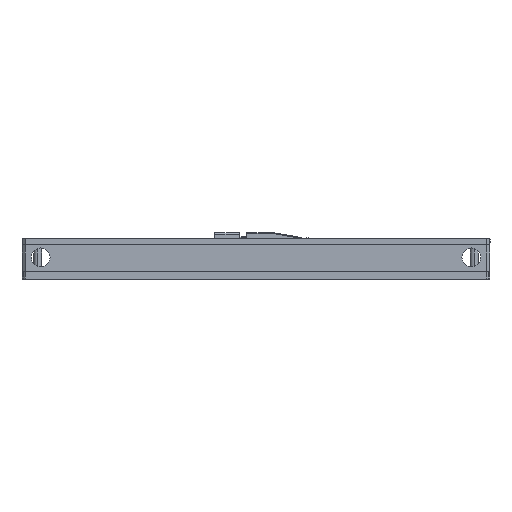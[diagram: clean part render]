
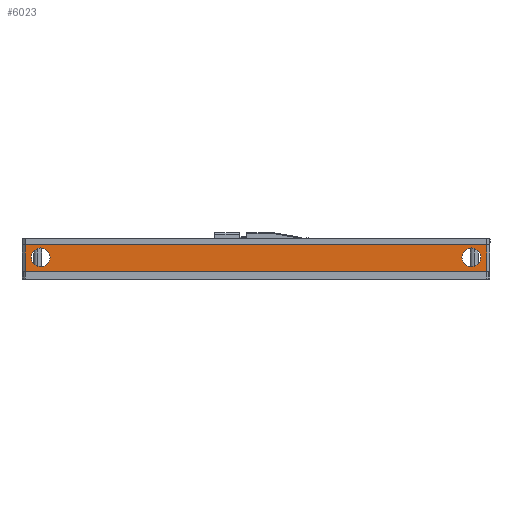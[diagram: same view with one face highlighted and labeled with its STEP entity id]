
A CAD part, left-side view. The second image highlights one B-rep face of the part: STEP entity #6023.
In plain terms, the highlighted planar face has unit normal (-1, 0, 0).
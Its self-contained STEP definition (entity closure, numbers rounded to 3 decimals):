
#174 = DIRECTION ( 'NONE',  ( 0., 1., 0. ) ) ;
#176 = ORIENTED_EDGE ( 'NONE', *, *, #5483, .F. ) ;
#227 = VERTEX_POINT ( 'NONE', #9261 ) ;
#245 = VECTOR ( 'NONE', #3245, 1000. ) ;
#340 = DIRECTION ( 'NONE',  ( 0., -1., 0. ) ) ;
#367 = VERTEX_POINT ( 'NONE', #8118 ) ;
#476 = FACE_BOUND ( 'NONE', #5488, .T. ) ;
#676 = DIRECTION ( 'NONE',  ( 1., 0., 0. ) ) ;
#1082 = AXIS2_PLACEMENT_3D ( 'NONE', #3679, #6865, #8332 ) ;
#1219 = EDGE_LOOP ( 'NONE', ( #5981, #3485, #7104, #7829 ) ) ;
#1375 = EDGE_CURVE ( 'NONE', #367, #7804, #8007, .T. ) ;
#1393 = DIRECTION ( 'NONE',  ( 0., -1., 0. ) ) ;
#1627 = VECTOR ( 'NONE', #340, 1000. ) ;
#1694 = DIRECTION ( 'NONE',  ( -1., 0., 0. ) ) ;
#1779 = EDGE_LOOP ( 'NONE', ( #2352, #9032 ) ) ;
#1904 = CARTESIAN_POINT ( 'NONE',  ( -70., 74., 0. ) ) ;
#2181 = DIRECTION ( 'NONE',  ( 0., 1., 0. ) ) ;
#2352 = ORIENTED_EDGE ( 'NONE', *, *, #9350, .F. ) ;
#2473 = CARTESIAN_POINT ( 'NONE',  ( -70., 74., -8.5 ) ) ;
#2563 = EDGE_CURVE ( 'NONE', #227, #3940, #4960, .T. ) ;
#2593 = DIRECTION ( 'NONE',  ( 0., 0., 1. ) ) ;
#2713 = DIRECTION ( 'NONE',  ( 0., 1., 0. ) ) ;
#2750 = CARTESIAN_POINT ( 'NONE',  ( -70., 69., -4. ) ) ;
#2918 = CARTESIAN_POINT ( 'NONE',  ( -70., 75., -8.5 ) ) ;
#2931 = CARTESIAN_POINT ( 'NONE',  ( -70., -74., 0. ) ) ;
#2959 = CARTESIAN_POINT ( 'NONE',  ( -70., -69., -4. ) ) ;
#2966 = LINE ( 'NONE', #2918, #4751 ) ;
#3245 = DIRECTION ( 'NONE',  ( 0., 0., -1. ) ) ;
#3459 = ORIENTED_EDGE ( 'NONE', *, *, #9095, .F. ) ;
#3479 = DIRECTION ( 'NONE',  ( -1., 0., 0. ) ) ;
#3485 = ORIENTED_EDGE ( 'NONE', *, *, #9291, .T. ) ;
#3679 = CARTESIAN_POINT ( 'NONE',  ( -70., -69., -4. ) ) ;
#3876 = CARTESIAN_POINT ( 'NONE',  ( -70., 74., -8.5 ) ) ;
#3891 = CARTESIAN_POINT ( 'NONE',  ( -70., -72., -4. ) ) ;
#3940 = VERTEX_POINT ( 'NONE', #2931 ) ;
#3975 = CARTESIAN_POINT ( 'NONE',  ( -70., 69., -4. ) ) ;
#4074 = VERTEX_POINT ( 'NONE', #3891 ) ;
#4085 = AXIS2_PLACEMENT_3D ( 'NONE', #6858, #676, #4450 ) ;
#4400 = LINE ( 'NONE', #5692, #1627 ) ;
#4450 = DIRECTION ( 'NONE',  ( 0., -1., 0. ) ) ;
#4514 = PLANE ( 'NONE',  #4085 ) ;
#4599 = CIRCLE ( 'NONE', #1082, 3. ) ;
#4751 = VECTOR ( 'NONE', #1393, 1000. ) ;
#4820 = CIRCLE ( 'NONE', #5207, 3. ) ;
#4960 = LINE ( 'NONE', #5621, #7866 ) ;
#5115 = AXIS2_PLACEMENT_3D ( 'NONE', #2959, #6804, #2181 ) ;
#5207 = AXIS2_PLACEMENT_3D ( 'NONE', #3975, #1694, #174 ) ;
#5424 = CIRCLE ( 'NONE', #5115, 3. ) ;
#5483 = EDGE_CURVE ( 'NONE', #8289, #4074, #5424, .T. ) ;
#5488 = EDGE_LOOP ( 'NONE', ( #176, #3459 ) ) ;
#5621 = CARTESIAN_POINT ( 'NONE',  ( -70., -74., -8.5 ) ) ;
#5692 = CARTESIAN_POINT ( 'NONE',  ( -70., 75., 0. ) ) ;
#5981 = ORIENTED_EDGE ( 'NONE', *, *, #7504, .F. ) ;
#6023 = ADVANCED_FACE ( 'NONE', ( #476, #9759, #8442 ), #4514, .F. ) ;
#6804 = DIRECTION ( 'NONE',  ( -1., 0., 0. ) ) ;
#6858 = CARTESIAN_POINT ( 'NONE',  ( -70., 75., -8.5 ) ) ;
#6865 = DIRECTION ( 'NONE',  ( -1., 0., 0. ) ) ;
#7104 = ORIENTED_EDGE ( 'NONE', *, *, #7192, .T. ) ;
#7192 = EDGE_CURVE ( 'NONE', #9410, #227, #2966, .T. ) ;
#7378 = CARTESIAN_POINT ( 'NONE',  ( -70., 72., -4. ) ) ;
#7464 = CARTESIAN_POINT ( 'NONE',  ( -70., -66., -4. ) ) ;
#7504 = EDGE_CURVE ( 'NONE', #7557, #3940, #4400, .T. ) ;
#7557 = VERTEX_POINT ( 'NONE', #1904 ) ;
#7804 = VERTEX_POINT ( 'NONE', #7378 ) ;
#7829 = ORIENTED_EDGE ( 'NONE', *, *, #2563, .T. ) ;
#7855 = LINE ( 'NONE', #3876, #245 ) ;
#7866 = VECTOR ( 'NONE', #2593, 1000. ) ;
#8007 = CIRCLE ( 'NONE', #9673, 3. ) ;
#8118 = CARTESIAN_POINT ( 'NONE',  ( -70., 66., -4. ) ) ;
#8289 = VERTEX_POINT ( 'NONE', #7464 ) ;
#8332 = DIRECTION ( 'NONE',  ( 0., 1., 0. ) ) ;
#8442 = FACE_OUTER_BOUND ( 'NONE', #1219, .T. ) ;
#9032 = ORIENTED_EDGE ( 'NONE', *, *, #1375, .F. ) ;
#9095 = EDGE_CURVE ( 'NONE', #4074, #8289, #4599, .T. ) ;
#9261 = CARTESIAN_POINT ( 'NONE',  ( -70., -74., -8.5 ) ) ;
#9291 = EDGE_CURVE ( 'NONE', #7557, #9410, #7855, .T. ) ;
#9350 = EDGE_CURVE ( 'NONE', #7804, #367, #4820, .T. ) ;
#9410 = VERTEX_POINT ( 'NONE', #2473 ) ;
#9673 = AXIS2_PLACEMENT_3D ( 'NONE', #2750, #3479, #2713 ) ;
#9759 = FACE_BOUND ( 'NONE', #1779, .T. ) ;
